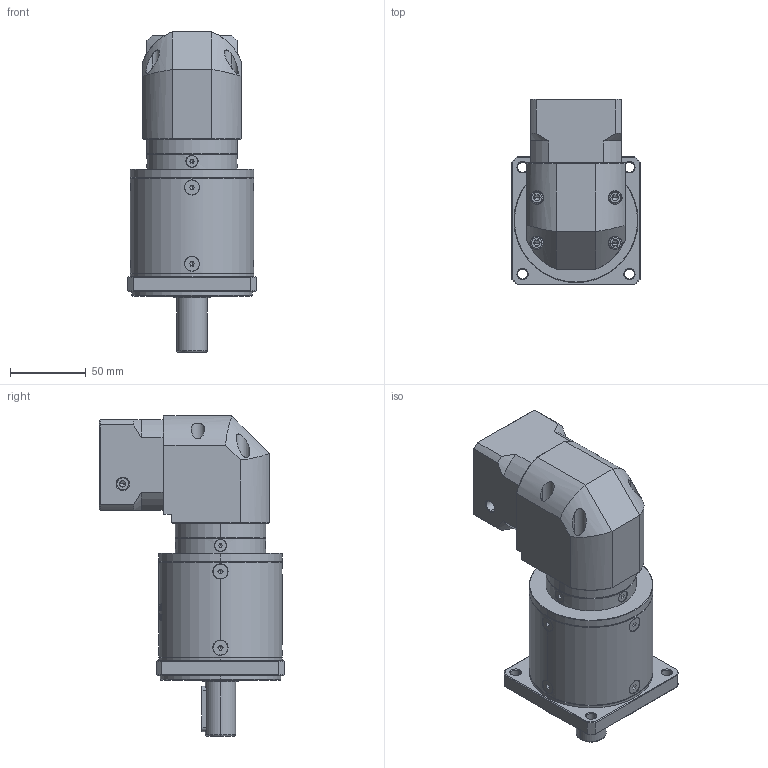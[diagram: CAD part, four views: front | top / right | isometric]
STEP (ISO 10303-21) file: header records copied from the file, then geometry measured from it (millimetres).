
FILE_DESCRIPTION (( 'STEP AP214' ), '1' );
FILE_NAME ('ZFR080-D20-L3-P2-14-50-70-M5.step', '2023-08-25T07:19:41', ( '' ), ( '' ), 'SwSTEP 2.0', 'SolidWorks 2016', '' );
FILE_SCHEMA (( 'AUTOMOTIVE_DESIGN' ));
Length unit declared in the file: millimetre
Products named in the file (1): ZFR080-D20-L3-P2-14-50-70-M5
Bounding box: 85 x 122.7 x 212 mm (x, y, z)
Volume: 887676.9 mm3; surface area: 107224.9 mm2
Topology: 17 solids, 18 shells, 2449 faces, 6385 edges, 4051 vertices
Faces by surface type: plane 1176, cylinder 450, bspline 406, cone 381, torus 36
Entity records: 127311 total; most frequent: CARTESIAN_POINT 45195, ORIENTED_EDGE 12678, DIRECTION 9783, EDGE_CURVE 6339, VERTEX_POINT 4051, LINE 3375, VECTOR 3375, AXIS2_PLACEMENT_3D 3204
